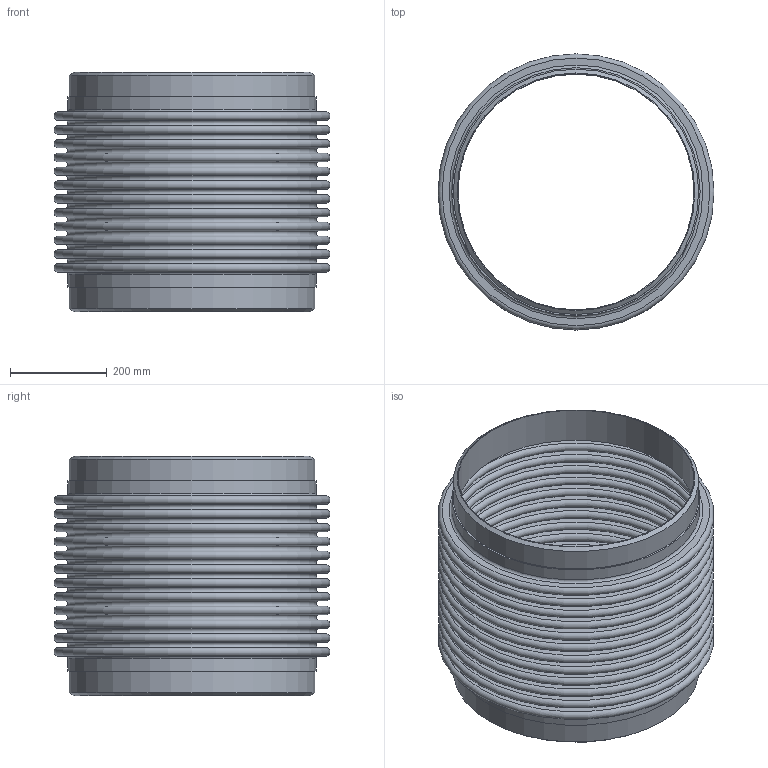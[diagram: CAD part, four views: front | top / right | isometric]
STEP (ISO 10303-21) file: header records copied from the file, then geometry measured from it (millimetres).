
FILE_DESCRIPTION(/* description */ ('EXPANSION JOINT,SINGLE, WELD ENDS,4 INCH NOMINAL'),/* implementation_level */ '2;1');
FILE_NAME(/* name */ 'ASSEMBLY US-20-12-300L.stp',/* time_stamp */ '2026-07-30T08:03:49-05:00',/* author */ ('jorgef'),/* organization */ (''),/* preprocessor_version */ 'ST-DEVELOPER v20.1',/* originating_system */ 'Autodesk Inventor 2026',/* authorisation */ '');
FILE_SCHEMA (('AUTOMOTIVE_DESIGN { 1 0 10303 214 3 1 1 }'));
Length unit declared in the file: inch
Products named in the file (3): ASSEMBLY  US-20-12-300L; STOCK BELLOW - US-20-12-300L; PIPE- US-20-12-300L
Assembly tree (3 placements, depth 2):
  ASSEMBLY  US-20-12-300L
    STOCK BELLOW - US-20-12-300L
    PIPE- US-20-12-300L  x2
Bounding box: 571.5 x 571.5 x 495.3 mm (x, y, z)
Volume: 7017319 mm3; surface area: 3716419.1 mm2
Topology: 5 solids, 5 shells, 118 faces, 180 edges, 121 vertices
Faces by surface type: plane 58, torus 50, cylinder 8, cone 2
Full cylindrical faces by diameter (mm): 488.95 x2, 508 x4, 514.096 x2
Entity records: 2769 total; most frequent: DIRECTION 573, CARTESIAN_POINT 405, ORIENTED_EDGE 342, AXIS2_PLACEMENT_3D 283, EDGE_CURVE 171, EDGE_LOOP 169, CIRCLE 164, VERTEX_POINT 114
